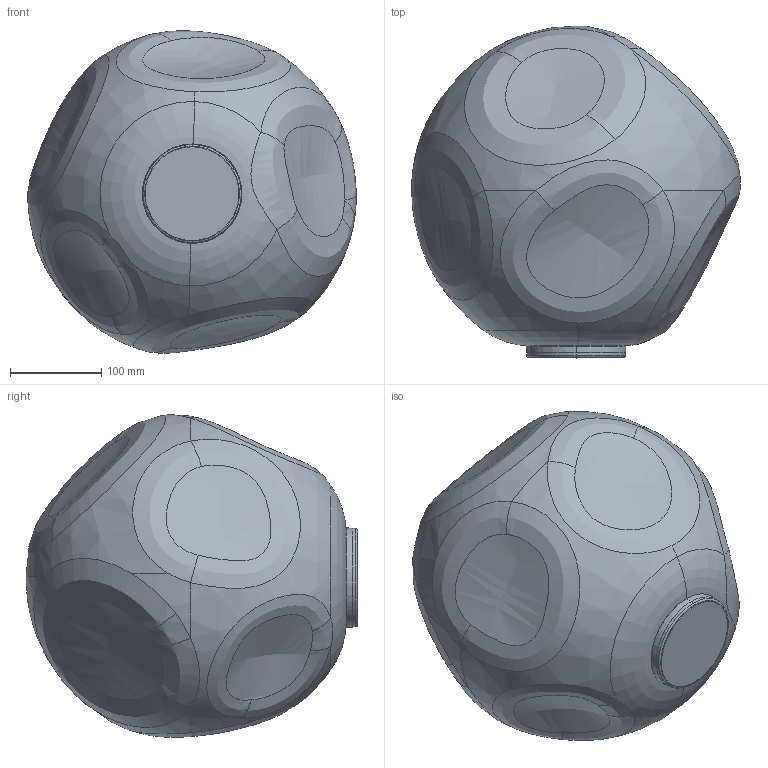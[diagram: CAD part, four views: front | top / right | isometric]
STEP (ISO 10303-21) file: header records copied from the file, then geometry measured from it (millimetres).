
FILE_DESCRIPTION (( 'STEP AP203' ), '1' );
FILE_NAME ('325_GRANDE_T_PL_3D.STEP', '2023-12-20T13:05:26', ( '' ), ( '' ), 'SwSTEP 2.0', 'SolidWorks 2023', '' );
FILE_SCHEMA (( 'CONFIG_CONTROL_DESIGN' ));
Length unit declared in the file: millimetre
Products named in the file (1): 325_GRANDE_T_PL_3D
Bounding box: 359.63 x 363.07 x 352.86 mm (x, y, z)
Volume: 885087.1 mm3; surface area: 794380.5 mm2
Topology: 2 solids, 2 shells, 109 faces, 267 edges, 165 vertices
Faces by surface type: bspline 68, torus 14, cylinder 10, plane 7, sphere 6, cone 4
Entity records: 90365 total; most frequent: CARTESIAN_POINT 88244, ORIENTED_EDGE 534, EDGE_CURVE 267, DIRECTION 246, B_SPLINE_CURVE_WITH_KNOTS 179, VERTEX_POINT 165, AXIS2_PLACEMENT_3D 116, EDGE_LOOP 112
